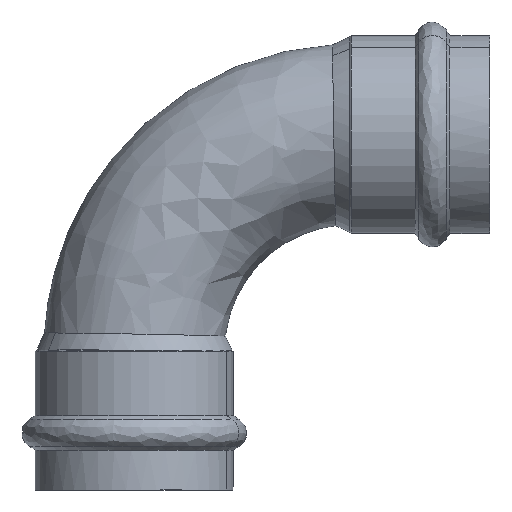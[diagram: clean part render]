
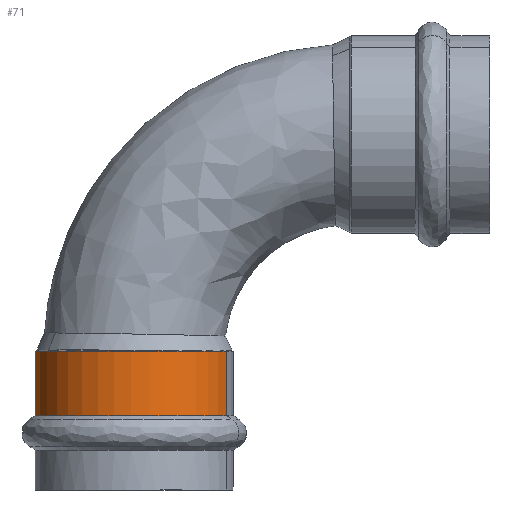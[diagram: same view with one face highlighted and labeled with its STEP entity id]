
A CAD part, front view. The second image highlights one B-rep face of the part: STEP entity #71.
In plain terms, the highlighted cylindrical face has radius 27.85 mm (diameter 55.7 mm), a partial arc.
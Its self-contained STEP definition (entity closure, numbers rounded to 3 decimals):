
#71=ADVANCED_FACE('',(#172),#173,.T.);
#172=FACE_OUTER_BOUND('',#476,.T.);
#173=CYLINDRICAL_SURFACE('',#477,27.85);
#476=EDGE_LOOP('',(#985,#986,#987,#988,#989));
#477=AXIS2_PLACEMENT_3D('',#990,#991,#992);
#985=ORIENTED_EDGE('',*,*,#1377,.F.);
#986=ORIENTED_EDGE('',*,*,#1378,.F.);
#987=ORIENTED_EDGE('',*,*,#1379,.F.);
#988=ORIENTED_EDGE('',*,*,#1380,.T.);
#989=ORIENTED_EDGE('',*,*,#1381,.T.);
#990=CARTESIAN_POINT('',(0.,0.,-64.61));
#991=DIRECTION('',(0.,0.,1.0));
#992=DIRECTION('',(-0.929,0.37,0.));
#1377=EDGE_CURVE('',#1574,#1575,#1576,.T.);
#1378=EDGE_CURVE('',#1577,#1574,#1578,.T.);
#1379=EDGE_CURVE('',#1579,#1577,#1580,.T.);
#1380=EDGE_CURVE('',#1579,#1581,#1582,.T.);
#1381=EDGE_CURVE('',#1581,#1575,#1583,.T.);
#1574=VERTEX_POINT('',#1995);
#1575=VERTEX_POINT('',#1996);
#1576=LINE('',#1997,#1998);
#1577=VERTEX_POINT('',#1999);
#1578=CIRCLE('',#2000,27.85);
#1579=VERTEX_POINT('',#2001);
#1580=LINE('',#2002,#2003);
#1581=VERTEX_POINT('',#2004);
#1582=CIRCLE('',#2005,27.85);
#1583=CIRCLE('',#2006,27.85);
#1995=CARTESIAN_POINT('',(-25.878,10.292,-79.05));
#1996=CARTESIAN_POINT('',(-25.878,10.292,-61.));
#1997=CARTESIAN_POINT('',(-25.878,10.292,-64.61));
#1998=VECTOR('',#2794,1.0);
#1999=CARTESIAN_POINT('',(25.878,-10.292,-79.05));
#2000=AXIS2_PLACEMENT_3D('',#2795,#2796,#2797);
#2001=CARTESIAN_POINT('',(25.878,-10.292,-61.));
#2002=CARTESIAN_POINT('',(25.878,-10.292,-64.61));
#2003=VECTOR('',#2798,1.0);
#2004=CARTESIAN_POINT('',(-10.292,-25.878,-61.));
#2005=AXIS2_PLACEMENT_3D('',#2799,#2800,#2801);
#2006=AXIS2_PLACEMENT_3D('',#2802,#2803,#2804);
#2794=DIRECTION('',(0.,0.,1.0));
#2795=CARTESIAN_POINT('',(0.,0.,-79.05));
#2796=DIRECTION('',(0.,0.,-1.0));
#2797=DIRECTION('',(0.37,0.929,0.));
#2798=DIRECTION('',(0.,0.,-1.0));
#2799=CARTESIAN_POINT('',(0.,0.,-61.));
#2800=DIRECTION('',(0.,0.,-1.0));
#2801=DIRECTION('',(0.37,0.929,0.));
#2802=CARTESIAN_POINT('',(0.,0.,-61.));
#2803=DIRECTION('',(0.,0.,-1.0));
#2804=DIRECTION('',(-0.37,-0.929,0.));
